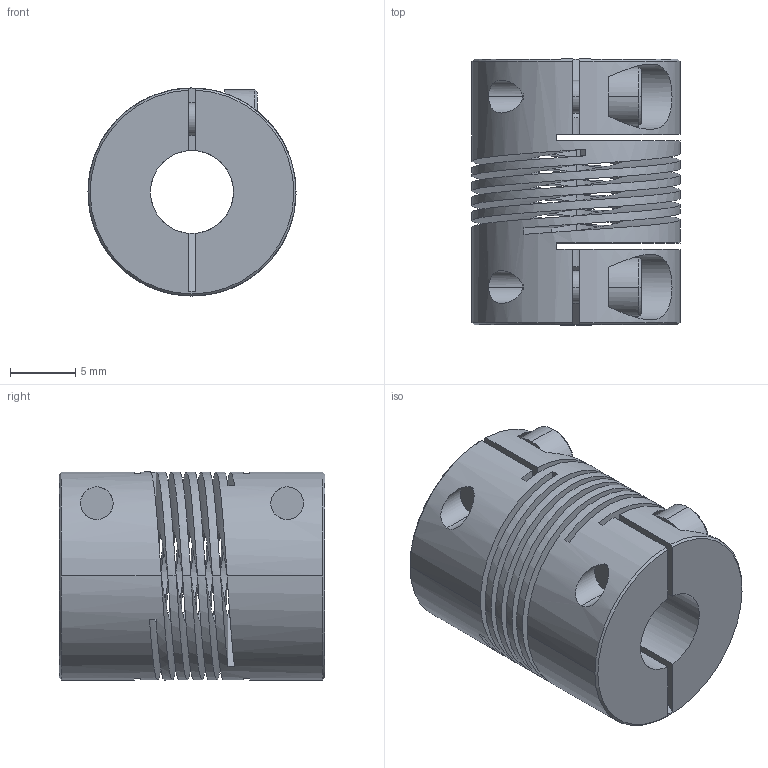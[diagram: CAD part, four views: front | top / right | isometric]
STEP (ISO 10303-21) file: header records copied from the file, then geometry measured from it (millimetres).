
FILE_DESCRIPTION((''),'2;1');
FILE_NAME('725_16','2006-12-05T',('Gary Melling'),(''),'PRO/ENGINEER BY PARAMETRIC TECHNOLOGY CORPORATION, 2006240','PRO/ENGINEER BY PARAMETRIC TECHNOLOGY CORPORATION, 2006240','');
FILE_SCHEMA(('CONFIG_CONTROL_DESIGN'));
Length unit declared in the file: millimetre
Products named in the file (1): 725_16
Bounding box: 15.9 x 20.3 x 15.9 mm (x, y, z)
Volume: 2706.5 mm3; surface area: 3911.8 mm2
Topology: 1 solids, 1 shells, 102 faces, 290 edges, 190 vertices
Faces by surface type: plane 52, cylinder 38, bspline 6, cone 6
Entity records: 5126 total; most frequent: CARTESIAN_POINT 2496, ORIENTED_EDGE 580, DIRECTION 482, EDGE_CURVE 290, VERTEX_POINT 190, AXIS2_PLACEMENT_3D 162, VECTOR 158, LINE 158
